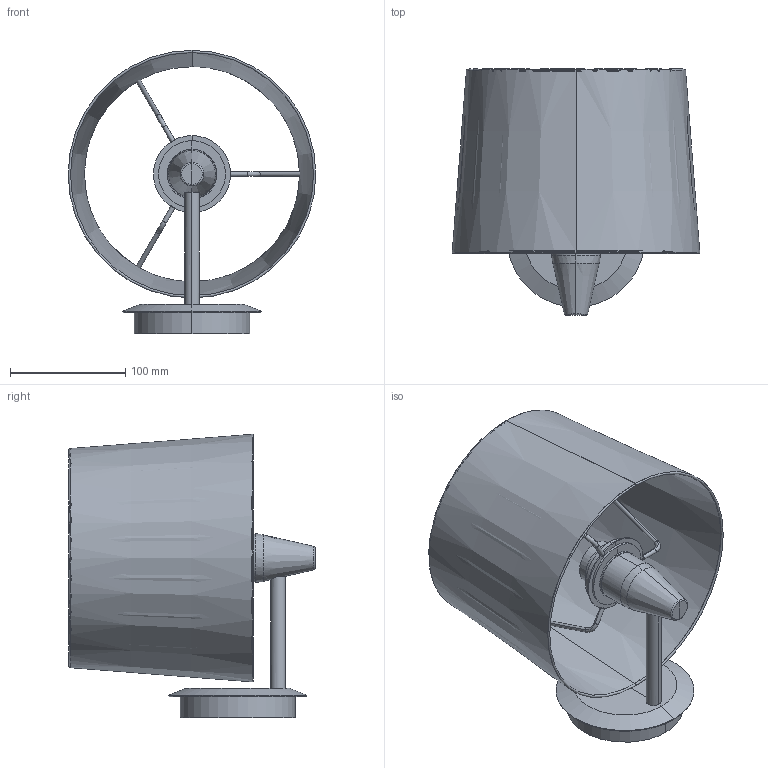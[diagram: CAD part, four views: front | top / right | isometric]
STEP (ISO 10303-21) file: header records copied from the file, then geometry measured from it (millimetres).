
FILE_DESCRIPTION(/* description */ (''),/* implementation_level */ '2;1');
FILE_NAME(/* name */ 'C:\Users\Franco Sartori E\Documents\FARO\DUPLICADO\Modelos\01_Digitalizados\2021\0_MAMBO_SAMBA_CONGA_APLIQUE\03_Publicación\64306-02.stp',/* time_stamp */ '2021-02-04T09:27:05+01:00',/* author */ ('Franco Sartori E'),/* organization */ (''),/* preprocessor_version */ 'ST-DEVELOPER v18.1',/* originating_system */ 'AutoCAD Mechanical',/* authorisation */ '');
FILE_SCHEMA (('AUTOMOTIVE_DESIGN { 1 0 10303 214 3 1 1 }'));
Length unit declared in the file: millimetre
Products named in the file (5): Product; 64306_64307_rfa - structure-554974-_3D_; MAMBO - 2P0710 Rattan shade wall lamp-556440-_3D_; SAMBA - 2P0615 Beige ribbon textile shade-556442-_3D_; CONGA - 2P0111 White textile shade-556443-_3D_
Assembly tree (4 placements, depth 2):
  Product
    64306_64307_rfa - structure-554974-_3D_
    MAMBO - 2P0710 Rattan shade wall lamp-556440-_3D_
    SAMBA - 2P0615 Beige ribbon textile shade-556442-_3D_
    CONGA - 2P0111 White textile shade-556443-_3D_
Bounding box: 214.84 x 213.53 x 245.88 mm (x, y, z)
Volume: 273232.7 mm3; surface area: 504274.7 mm2
Topology: 11 solids, 12 shells, 158 faces, 324 edges, 176 vertices
Faces by surface type: plane 68, cylinder 58, cone 18, torus 12, bspline 2
Entity records: 5258 total; most frequent: CARTESIAN_POINT 1816, DIRECTION 748, ORIENTED_EDGE 648, EDGE_CURVE 324, AXIS2_PLACEMENT_3D 293, VERTEX_POINT 176, EDGE_LOOP 162, LINE 162
